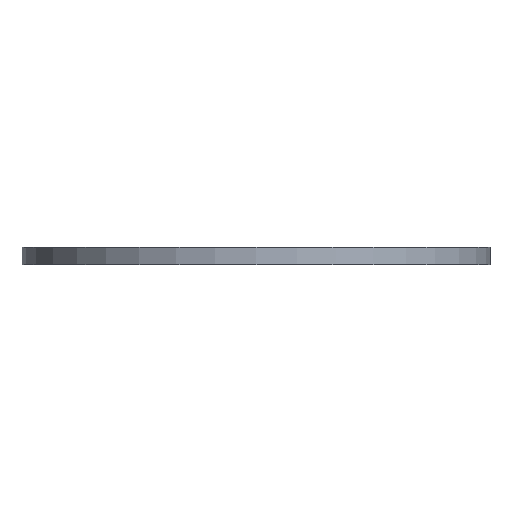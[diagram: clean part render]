
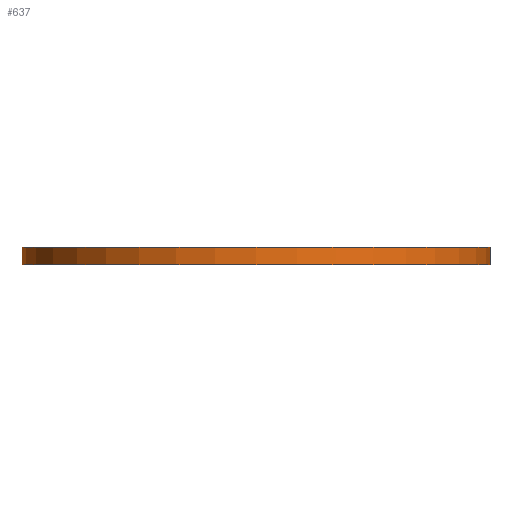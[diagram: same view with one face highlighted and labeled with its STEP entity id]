
A CAD part, front view. The second image highlights one B-rep face of the part: STEP entity #637.
In plain terms, the highlighted cylindrical face has radius 327.5 mm (diameter 655 mm), a full revolution.
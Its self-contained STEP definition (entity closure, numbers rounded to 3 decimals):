
#80=FACE_OUTER_BOUND('',#104,.T.);
#104=EDGE_LOOP('',(#521,#522,#523,#524,#525,#526));
#170=LINE('',#1132,#192);
#192=VECTOR('',#948,327.5);
#256=CIRCLE('',#745,327.5);
#257=CIRCLE('',#746,327.5);
#258=CIRCLE('',#747,327.5);
#259=CIRCLE('',#748,327.5);
#323=VERTEX_POINT('',#1127);
#324=VERTEX_POINT('',#1128);
#325=VERTEX_POINT('',#1131);
#326=VERTEX_POINT('',#1133);
#411=EDGE_CURVE('',#323,#324,#256,.T.);
#412=EDGE_CURVE('',#324,#323,#257,.T.);
#413=EDGE_CURVE('',#324,#325,#170,.T.);
#414=EDGE_CURVE('',#325,#326,#258,.T.);
#415=EDGE_CURVE('',#326,#325,#259,.T.);
#521=ORIENTED_EDGE('',*,*,#411,.F.);
#522=ORIENTED_EDGE('',*,*,#412,.F.);
#523=ORIENTED_EDGE('',*,*,#413,.T.);
#524=ORIENTED_EDGE('',*,*,#414,.T.);
#525=ORIENTED_EDGE('',*,*,#415,.T.);
#526=ORIENTED_EDGE('',*,*,#413,.F.);
#615=CYLINDRICAL_SURFACE('',#744,327.5);
#637=ADVANCED_FACE('',(#80),#615,.T.);
#744=AXIS2_PLACEMENT_3D('',#1126,#942,#943);
#745=AXIS2_PLACEMENT_3D('',#1129,#944,#945);
#746=AXIS2_PLACEMENT_3D('',#1130,#946,#947);
#747=AXIS2_PLACEMENT_3D('',#1134,#949,#950);
#748=AXIS2_PLACEMENT_3D('',#1135,#951,#952);
#942=DIRECTION('center_axis',(0.,0.,1.));
#943=DIRECTION('ref_axis',(1.,0.,0.));
#944=DIRECTION('center_axis',(0.,0.,1.));
#945=DIRECTION('ref_axis',(1.,0.,0.));
#946=DIRECTION('center_axis',(0.,0.,1.));
#947=DIRECTION('ref_axis',(1.,0.,0.));
#948=DIRECTION('',(0.,0.,-1.));
#949=DIRECTION('center_axis',(0.,0.,1.));
#950=DIRECTION('ref_axis',(1.,0.,0.));
#951=DIRECTION('center_axis',(0.,0.,1.));
#952=DIRECTION('ref_axis',(1.,0.,0.));
#1126=CARTESIAN_POINT('Origin',(0.,0.,0.));
#1127=CARTESIAN_POINT('',(327.5,0.,24.));
#1128=CARTESIAN_POINT('',(-327.5,0.,24.));
#1129=CARTESIAN_POINT('Origin',(0.,0.,24.));
#1130=CARTESIAN_POINT('Origin',(0.,0.,24.));
#1131=CARTESIAN_POINT('',(-327.5,0.,0.));
#1132=CARTESIAN_POINT('',(-327.5,0.,0.));
#1133=CARTESIAN_POINT('',(327.5,0.,0.));
#1134=CARTESIAN_POINT('Origin',(0.,0.,0.));
#1135=CARTESIAN_POINT('Origin',(0.,0.,0.));
